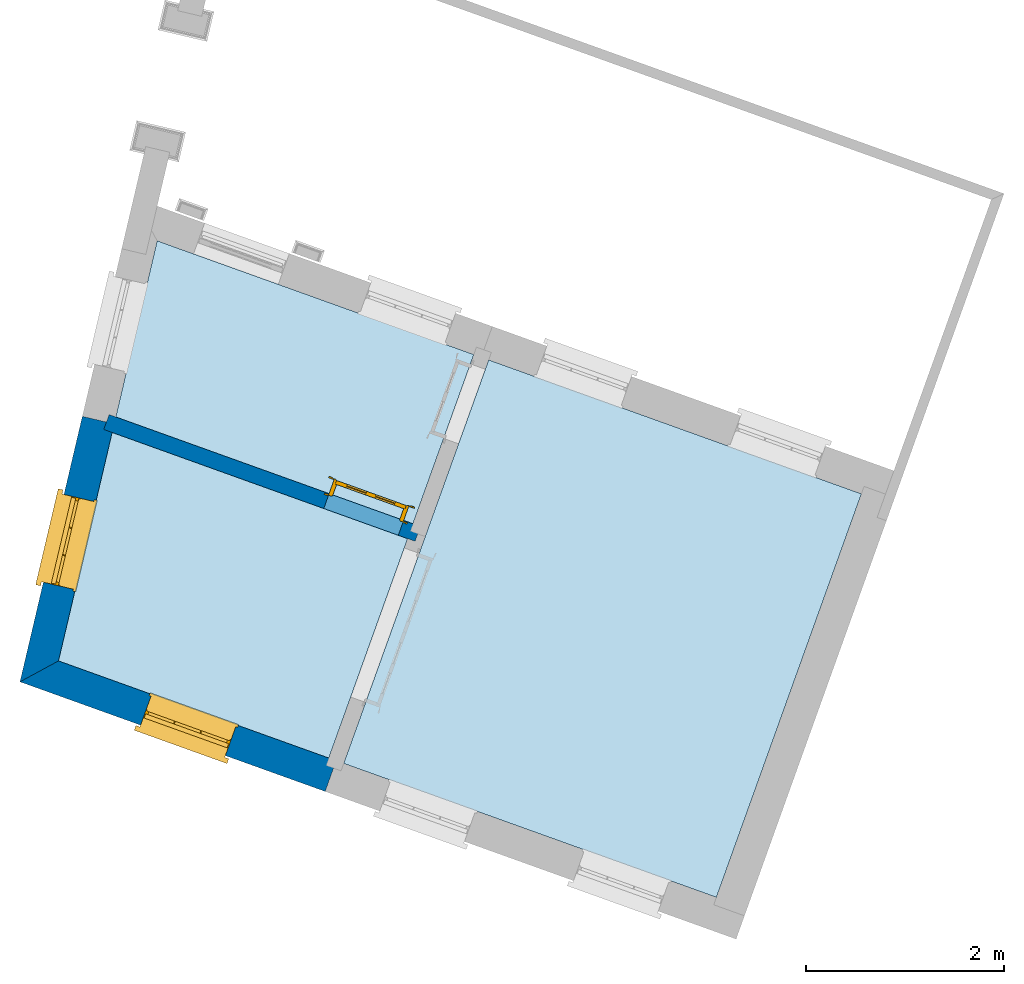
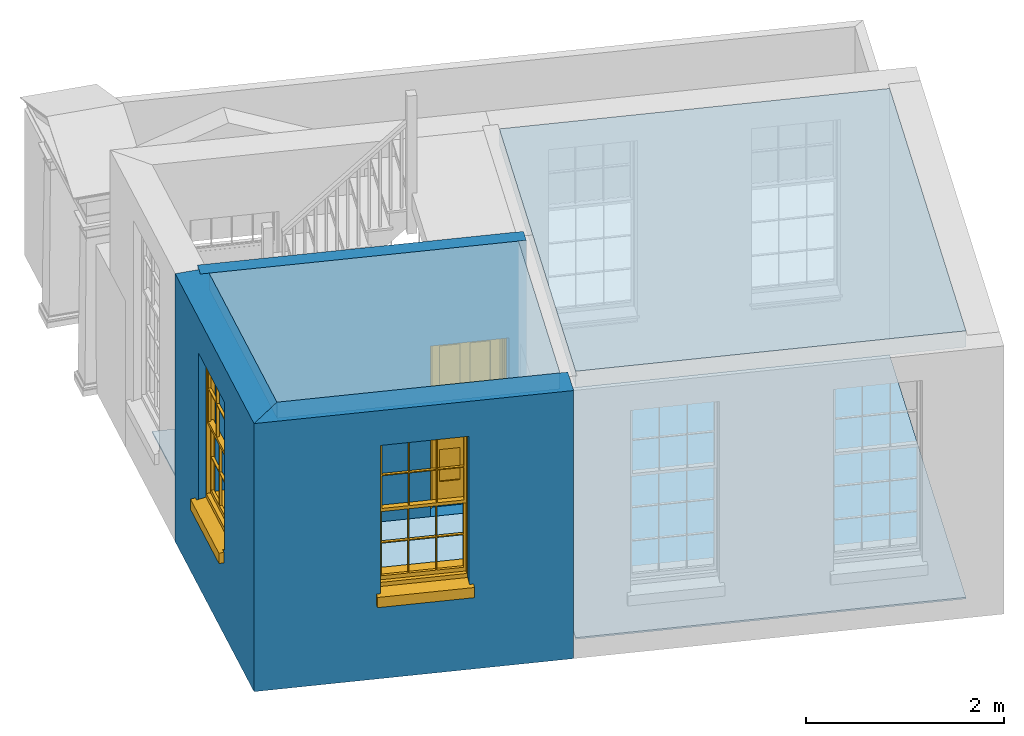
# One storey, part 1 of 6: 5 slabs, 3 walls, 2 windows, 1 door, 3 openings.
"""IFC4 building model written with IfcOpenShell, lengths in metres."""

import ifcopenshell
import ifcopenshell.guid

model = None  # the IFC model being written
_history = None  # IfcOwnerHistory: only IFC2X3 demands one
_inside = {}  # id of a spatial element -> (the spatial element, [elements in it])
_under = {}  # id of a project, library or spatial element -> (it, [spatial elements below it])
_declared = {}  # id of a project -> (the project, [libraries it declares])
_typed = {}  # id of a type object -> (the type object, [elements of that type])
_made_of = {}  # id of a material, layer set ... -> (it, [elements and type objects made of it])


def new_model(schema):
    """Start an empty IFC model of exactly this schema.

    Asked for "IFC4X3", IfcOpenShell would pick the latest addendum, in which some entities
    have other attributes; the version numbers below select the first issue.
    IFC2X3 requires an IfcOwnerHistory on every rooted entity: one is made here for all.
    """
    global model, _history
    if schema == "IFC4X3":
        model = ifcopenshell.file(schema_version=(4, 3, 0, 0))
    else:
        model = ifcopenshell.file(schema=schema)
    _inside.clear()
    _under.clear()
    _declared.clear()
    _typed.clear()
    _made_of.clear()
    _history = None
    if model.schema == "IFC2X3":
        org = make("IfcOrganization", Name="unknown")
        user = make(
            "IfcPersonAndOrganization",
            ThePerson=make("IfcPerson", FamilyName="unknown"),
            TheOrganization=org,
        )
        app = make(
            "IfcApplication",
            ApplicationDeveloper=org,
            Version="unknown",
            ApplicationFullName="unknown",
            ApplicationIdentifier="unknown",
        )
        _history = make(
            "IfcOwnerHistory",
            OwningUser=user,
            OwningApplication=app,
            ChangeAction="ADDED",
            CreationDate=0,
        )
    return model


def make(cls, **values):
    """One entity of the class cls with the attributes given. An attribute that is None is left unset."""
    return model.create_entity(
        cls, **{name: value for name, value in values.items() if value is not None}
    )


def rooted(cls, **values):
    """An entity with a GlobalId (a new one), such as an element, a storey or a relation."""
    return make(cls, GlobalId=ifcopenshell.guid.new(), OwnerHistory=_history, **values)


def si_unit(unit_type, name, prefix=None):
    """IfcSIUnit, for example si_unit("LENGTHUNIT", "METRE", prefix="MILLI")."""
    return make("IfcSIUnit", UnitType=unit_type, Prefix=prefix, Name=name)


def assignment(units):
    """IfcUnitAssignment: the units of a project."""
    return None if units is None else make("IfcUnitAssignment", Units=units)


def point(xyz):
    """IfcCartesianPoint."""
    return None if xyz is None else make("IfcCartesianPoint", Coordinates=xyz)


def direction(xyz):
    """IfcDirection."""
    return None if xyz is None else make("IfcDirection", DirectionRatios=xyz)


def frame(location, z_axis=None, x_axis=None):
    """IfcAxis2Placement3D, a coordinate frame: its origin and axes. An axis left out is left unset."""
    return make(
        "IfcAxis2Placement3D",
        Location=point(location),
        Axis=direction(z_axis),
        RefDirection=direction(x_axis),
    )


def origin():
    """The frame at (0, 0, 0) with its axes left unset."""
    return frame((0.0, 0.0, 0.0))


def origin_with_axes():
    """The frame at (0, 0, 0) with the z axis (0, 0, 1) and the x axis (1, 0, 0) written out."""
    return frame((0.0, 0.0, 0.0), z_axis=(0.0, 0.0, 1.0), x_axis=(1.0, 0.0, 0.0))


def place(relative_to, where):
    """IfcLocalPlacement: puts the frame where relative to a parent placement (None: the world)."""
    return make(
        "IfcLocalPlacement", PlacementRelTo=relative_to, RelativePlacement=where
    )


def context(
    kind, dimensions, precision=None, world=None, true_north=None, identifier=None
):
    """IfcGeometricRepresentationContext, for example the 3D "Model" context."""
    return make(
        "IfcGeometricRepresentationContext",
        ContextIdentifier=identifier,
        ContextType=kind,
        CoordinateSpaceDimension=dimensions,
        Precision=precision,
        WorldCoordinateSystem=world,
        TrueNorth=true_north,
    )


def subcontext(parent, identifier, kind, view, scale=None):
    """IfcGeometricRepresentationSubContext, for example "Body" below "Model"."""
    return make(
        "IfcGeometricRepresentationSubContext",
        ContextIdentifier=identifier,
        ContextType=kind,
        ParentContext=parent,
        TargetScale=scale,
        TargetView=view,
    )


def project(units=None, contexts=None):
    """IfcProject with its units and contexts."""
    return rooted(
        "IfcProject",
        Name="project",
        RepresentationContexts=contexts,
        UnitsInContext=assignment(units),
    )


def spatial(cls, under=None, at=None, **own):
    """A site, building, storey or space (cls), placed at a placement, below another one or the project."""
    s = rooted(cls, ObjectPlacement=at, **own)
    if under is not None:
        _under.setdefault(under.id(), (under, []))[1].append(s)
    return s


def polyline(points):
    """IfcPolyline through the points."""
    return make("IfcPolyline", Points=[point(p) for p in points])


def outline(outer, holes=None, kind="AREA"):
    """IfcArbitraryClosedProfileDef: a profile drawn as a closed curve; with holes, ...WithVoids."""
    if holes is None:
        return make("IfcArbitraryClosedProfileDef", ProfileType=kind, OuterCurve=outer)
    return make(
        "IfcArbitraryProfileDefWithVoids",
        ProfileType=kind,
        OuterCurve=outer,
        InnerCurves=holes,
    )


def extrude(swept, where, along, depth):
    """IfcExtrudedAreaSolid: the profile swept, set in the frame where, extruded along a direction by depth."""
    return make(
        "IfcExtrudedAreaSolid",
        SweptArea=swept,
        Position=where,
        ExtrudedDirection=direction(along),
        Depth=depth,
    )


def faces_of(points, faces, orient=None, outer=None):
    """IfcFace entities. A face is a list of loops; a loop is a list of indices into points, from 0.

    orient and outer hold one flag for each loop. By default every Orientation is true, the
    first loop of a face is its IfcFaceOuterBound and the others are IfcFaceBound.
    """
    made = []
    for i, loops in enumerate(faces):
        bounds = []
        for j, loop in enumerate(loops):
            is_outer = j == 0 if outer is None else outer[i][j]
            bounds.append(
                make(
                    "IfcFaceOuterBound" if is_outer else "IfcFaceBound",
                    Bound=make("IfcPolyLoop", Polygon=[points[k] for k in loop]),
                    Orientation=True if orient is None else orient[i][j],
                )
            )
        made.append(make("IfcFace", Bounds=bounds))
    return made


def faceted_brep(points, faces, orient=None, outer=None, voids=None):
    """IfcFacetedBrep: a solid bounded by flat faces; with voids (closed shells), ...WithVoids."""
    shared = [point(p) for p in points]
    hull = make("IfcClosedShell", CfsFaces=faces_of(shared, faces, orient, outer))
    if voids is None:
        return make("IfcFacetedBrep", Outer=hull)
    return make(
        "IfcFacetedBrepWithVoids",
        Outer=hull,
        Voids=[
            make(cls, CfsFaces=faces_of(shared, fs, o, b)) for cls, fs, o, b in voids
        ],
    )


def shape(context_of_items, identifier, shape_type, items):
    """IfcShapeRepresentation: the items that make up one representation, for example the "Body"."""
    return make(
        "IfcShapeRepresentation",
        ContextOfItems=context_of_items,
        RepresentationIdentifier=identifier,
        RepresentationType=shape_type,
        Items=items,
    )


def source(mapping_origin, context_of_items, identifier, shape_type, items):
    """IfcRepresentationMap: a shape defined once, which mapped items show again and again."""
    return make(
        "IfcRepresentationMap",
        MappingOrigin=mapping_origin,
        MappedRepresentation=shape(context_of_items, identifier, shape_type, items),
    )


def transform(
    local_origin,
    x_axis=None,
    y_axis=None,
    z_axis=None,
    scale=None,
    scale2=None,
    scale3=None,
    uniform=True,
):
    """IfcCartesianTransformationOperator3D, or its non-uniform kind. x_axis, y_axis, z_axis: its Axis1, 2, 3."""
    if uniform:
        return make(
            "IfcCartesianTransformationOperator3D",
            Axis1=direction(x_axis),
            Axis2=direction(y_axis),
            LocalOrigin=point(local_origin),
            Scale=scale,
            Axis3=direction(z_axis),
        )
    return make(
        "IfcCartesianTransformationOperator3DnonUniform",
        Axis1=direction(x_axis),
        Axis2=direction(y_axis),
        LocalOrigin=point(local_origin),
        Scale=scale,
        Axis3=direction(z_axis),
        Scale2=scale2,
        Scale3=scale3,
    )


def mapped(mapping_source, mapping_target):
    """IfcMappedItem: shows the shape of a source again, moved by a transform."""
    return make(
        "IfcMappedItem", MappingSource=mapping_source, MappingTarget=mapping_target
    )


def material(Name=None, Category=None):
    """IfcMaterial."""
    return make("IfcMaterial", Name=Name, Category=Category)


def layer(
    of_material, thickness, ventilated=None, Name=None, Category=None, Priority=None
):
    """IfcMaterialLayer: one layer of a wall or slab, of a material (None: an air gap)."""
    return make(
        "IfcMaterialLayer",
        Material=of_material,
        LayerThickness=thickness,
        IsVentilated=ventilated,
        Name=Name,
        Category=Category,
        Priority=Priority,
    )


def layer_set(layers, Name=None):
    """IfcMaterialLayerSet."""
    return make("IfcMaterialLayerSet", MaterialLayers=layers, LayerSetName=Name)


def layer_usage(for_layer_set, set_direction, sense, offset, extent=None):
    """IfcMaterialLayerSetUsage: how a layer set lies in its element."""
    return make(
        "IfcMaterialLayerSetUsage",
        ForLayerSet=for_layer_set,
        LayerSetDirection=set_direction,
        DirectionSense=sense,
        OffsetFromReferenceLine=offset,
        ReferenceExtent=extent,
    )


def made_of(thing, what):
    """Note that an element or type object is made of a material, layer set ...; save() writes the relation."""
    if what is not None:
        _made_of.setdefault(what.id(), (what, []))[1].append(thing)
    return thing


def type_object(cls, material=None, **own):
    """A type object (cls), such as IfcWallType, which elements share."""
    return made_of(rooted(cls, **own), material)


def type_shapes(of_type, sources):
    """Give a type object the sources (RepresentationMaps) that its elements show as mapped items."""
    of_type.RepresentationMaps = sources


def element(
    cls,
    number,
    at=None,
    inside=None,
    cuts=None,
    type_object=None,
    material=None,
    context=None,
    identifier="Body",
    shape_type=None,
    held_by="IfcProductDefinitionShape",
    body=None,
    shapes=None,
    **own,
):
    """One element of the class cls, such as IfcWall. Its Tag is "e" and its number.

    at: its placement. inside: the storey or other place that contains it. cuts: it is an
    opening in that element (IfcRelVoidsElement). A single representation is given by context,
    identifier, shape_type and body (its items); several are given by shapes. held_by: the class
    of the entity that holds the representations. save() writes the other relations.
    """
    e = rooted(cls, Tag="e%d" % number, ObjectPlacement=at, **own)
    if body is not None:
        shapes = [shape(context, identifier, shape_type, body)]
    if shapes is not None:
        e.Representation = make(held_by, Representations=shapes)
    if inside is not None:
        _inside.setdefault(inside.id(), (inside, []))[1].append(e)
    if cuts is not None:
        rooted(
            "IfcRelVoidsElement", RelatingBuildingElement=cuts, RelatedOpeningElement=e
        )
    if type_object is not None:
        _typed.setdefault(type_object.id(), (type_object, []))[1].append(e)
    return made_of(e, material)


def fill(opening, filler):
    """IfcRelFillsElement: the door or window that sits in an opening."""
    return rooted(
        "IfcRelFillsElement",
        RelatingOpeningElement=opening,
        RelatedBuildingElement=filler,
    )


def aggregate(whole, parts):
    """IfcRelAggregates: a whole, such as a stair, and the parts it consists of."""
    return rooted("IfcRelAggregates", RelatingObject=whole, RelatedObjects=parts)


def save(model, path):
    """Write the relations noted so far, then the file.

    IfcRelAggregates (storeys below a building ...), IfcRelContainedInSpatialStructure (elements
    in a storey), IfcRelDefinesByType, IfcRelAssociatesMaterial and IfcRelDeclares: one each for
    every whole, place, type object, material and project.
    """
    for whole, parts in _under.values():
        aggregate(whole, parts)
    for where, things in _inside.values():
        rooted(
            "IfcRelContainedInSpatialStructure",
            RelatedElements=things,
            RelatingStructure=where,
        )
    for kind, things in _typed.values():
        rooted("IfcRelDefinesByType", RelatedObjects=things, RelatingType=kind)
    for what, things in _made_of.values():
        rooted("IfcRelAssociatesMaterial", RelatedObjects=things, RelatingMaterial=what)
    for by, libraries in _declared.values():
        rooted("IfcRelDeclares", RelatingContext=by, RelatedDefinitions=libraries)
    model.write(path)


model = new_model("IFC4")

# Units and contexts
model_context = context("Model", 3, world=origin_with_axes())
body_context = subcontext(model_context, "Body", "Model", "MODEL_VIEW")
ifc_project = project(units=[si_unit("PLANEANGLEUNIT", "RADIAN"), si_unit("MASSUNIT", "GRAM", prefix="KILO"), si_unit("FORCEUNIT", "NEWTON", prefix="KILO"), si_unit("LENGTHUNIT", "METRE"), si_unit("AREAUNIT", "SQUARE_METRE"), si_unit("VOLUMEUNIT", "CUBIC_METRE")], contexts=[model_context, model_context])

# Sites, building, storey
site_1_placement = place(None, origin_with_axes())
site_1 = spatial("IfcSite", under=ifc_project, at=site_1_placement, Name="Tamar")
site_2_placement = place(site_1_placement, origin_with_axes())
site_2 = spatial("IfcSite", under=site_1, at=site_2_placement, Name="Site plot-22", CompositionType="ELEMENT")
building_placement = place(None, origin_with_axes())
building = spatial("IfcBuilding", under=site_2, at=building_placement, Name="Building plot-22", CompositionType="ELEMENT")
storey_placement = place(None, frame((0.0, 0.0, 24.5), z_axis=(0.0, 0.0, 1.0), x_axis=(1.0, 0.0, 0.0)))
storey = spatial("IfcBuildingStorey", under=building, at=storey_placement, Name="plot-22 0", CompositionType="ELEMENT", Elevation=24.5)

# Slabs
slab_1_placement = place(storey_placement, frame((251.12970660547, 276.124688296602, 0.0)))
element("IfcSlab", 1, at=slab_1_placement, inside=storey, Name="My Slab", ObjectType="Slab", PredefinedType="FLOOR", context=body_context, shape_type="SweptSolid", body=[
    extrude(outline(polyline([(0.0, 0.0), (-0.417819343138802, -1.77888691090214), (2.58368293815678, -2.85742703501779), (3.19757895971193, -1.1489970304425), (0.0, 0.0)])), origin_with_axes(), (0.0, 0.0, 1.0), 0.02),
])
slab_2_placement = place(storey_placement, frame((250.675062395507, 274.189017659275, 3.1)))
element("IfcSlab", 2, at=slab_2_placement, inside=storey, Name="My Slab", ObjectType="Slab", PredefinedType="FLOOR", context=body_context, shape_type="SweptSolid", body=[
    extrude(outline(polyline([(0.0, 0.0), (-0.541850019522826, -2.30695376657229), (2.1880883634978, -3.28791190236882), (2.9842208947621, -1.07233034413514), (0.0, 0.0)])), origin_with_axes(), (0.0, 0.0, 1.0), 0.2),
])
slab_3_placement = place(storey_placement, frame((250.675062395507, 274.189017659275, 0.0)))
element("IfcSlab", 3, at=slab_3_placement, inside=storey, Name="My Slab", ObjectType="Slab", PredefinedType="FLOOR", context=body_context, shape_type="SweptSolid", body=[
    extrude(outline(polyline([(0.0, 0.0), (-0.541850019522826, -2.30695376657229), (2.1880883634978, -3.28791190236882), (2.9842208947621, -1.07233034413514), (0.0, 0.0)])), origin_with_axes(), (0.0, 0.0, 1.0), 0.02),
])
slab_4_placement = place(storey_placement, frame((253.013724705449, 270.846999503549, 3.1)))
element("IfcSlab", 4, at=slab_4_placement, inside=storey, Name="My Slab", ObjectType="Slab", PredefinedType="FLOOR", context=body_context, shape_type="SweptSolid", body=[
    extrude(outline(polyline([(0.0, 0.0), (3.76400951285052, -1.35253446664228), (5.22814431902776, 2.72205104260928), (1.4641348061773, 4.07458550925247), (0.0, 0.0)])), origin_with_axes(), (0.0, 0.0, 1.0), 0.2),
])
slab_5_placement = place(storey_placement, frame((253.013724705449, 270.846999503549, 0.0)))
element("IfcSlab", 5, at=slab_5_placement, inside=storey, Name="My Slab", ObjectType="Slab", PredefinedType="FLOOR", context=body_context, shape_type="SweptSolid", body=[
    extrude(outline(polyline([(0.0, 0.0), (3.76400951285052, -1.35253446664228), (5.22814431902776, 2.72205104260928), (1.4641348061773, 4.07458550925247), (0.0, 0.0)])), origin_with_axes(), (0.0, 0.0, 1.0), 0.02),
])

# Wall, opening, window
ifc_material_1 = material(Name="Masonry")
ifc_layer_1 = layer(ifc_material_1, 0.33, ventilated=False)
ifc_layer_set_1 = layer_set([ifc_layer_1], Name="exterior_0.08_0.25")
ifc_layer_usage_1 = layer_usage(ifc_layer_set_1, "AXIS2", "POSITIVE", -0.25)
wall_type_1 = type_object("IfcWallType", Name="exterior_0.08_0.25", PredefinedType="SOLIDWALL", material=ifc_layer_set_1)
wall_1_placement = place(storey_placement, frame((250.617693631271, 274.294640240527, 0.0), z_axis=(0.0, 0.0, 1.0), x_axis=(-0.228654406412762, -0.973507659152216, 0.0)))
wall_1 = element("IfcWall", 6, at=wall_1_placement, inside=storey, type_object=wall_type_1, material=ifc_layer_usage_1, Name="exterior", context=body_context, shape_type="SweptSolid", body=[
    extrude(outline(polyline([(-4.84638636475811e-15, 0.0799999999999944), (1.23387836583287e-14, -0.250000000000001), (2.75373249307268, -0.249999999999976), (2.4594403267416, 0.0799999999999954), (-4.84638636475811e-15, 0.0799999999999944)])), origin_with_axes(), (0.0, 0.0, 1.0), 3.3),
])
opening_1_placement = place(wall_1_placement, frame((0.810391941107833, 0.0, 1.05)))
opening_1 = element("IfcOpeningElement", 7, at=opening_1_placement, cuts=wall_1, Name="My Opening", ObjectType="Opening", context=body_context, shape_type="SweptSolid", body=[
    extrude(outline(polyline([(0.0, -0.270000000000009), (0.910000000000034, -0.270000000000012), (0.910000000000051, 1.09999999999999), (1.70974345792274e-14, 1.1), (0.0, -0.270000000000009)])), origin_with_axes(), (0.0, 0.0, 1.0), 1.82),
])
window_type = type_object("IfcWindowType", Name="sash_big", PartitioningType="DOUBLE_PANEL_HORIZONTAL", PredefinedType="NOTDEFINED")
shared_shape_1 = source(origin(), body_context, "Body", "Brep", [
    faceted_brep([(0.033125, 0.145, 0.975209), (0.01, 0.145, 0.975209), (0.033125, 0.145, 1.376042), (0.876875, 0.145, 0.975209), (0.876875, 0.145, 1.376042), (0.9, 0.145, 0.975209), (0.876875, 0.145, 1.386042), (0.876875, 0.145, 1.786875), (0.9, 0.145, 1.81), (0.033125, 0.145, 1.786875), (0.033125, 0.145, 1.386042), (0.01, 0.145, 1.81), (0.876875, 0.115, 1.376042), (0.876875, 0.115, 0.975209), (0.9, 0.115, 0.937083), (0.033125, 0.115, 1.786875), (0.01, 0.115, 1.81), (0.033125, 0.115, 1.386042), (0.01, 0.115, 0.937083), (0.033125, 0.115, 0.975209), (0.033125, 0.115, 1.376042), (0.876875, 0.115, 1.786875), (0.876875, 0.115, 1.386042), (0.9, 0.115, 1.81), (0.033125, 0.145, 0.937083), (0.01, 0.145, 0.937083), (0.033125, 0.145, 0.53625), (0.876875, 0.145, 0.937083), (0.876875, 0.145, 0.53625), (0.9, 0.145, 0.937083), (0.876875, 0.145, 0.52625), (0.876875, 0.145, 0.125417), (0.9, 0.145, 0.077167), (0.033125, 0.145, 0.125417), (0.033125, 0.145, 0.52625), (0.01, 0.145, 0.077167), (-0.0425, 0.0, 0.01), (-0.0425, -0.05, 0.001667), (0.0, 0.0, 0.01), (0.9525, 0.0, 0.01), (0.91, 0.0, 0.01), (0.9525, -0.05, 0.001667), (-0.02, 0.33, 0.077167), (0.0, 0.33, 0.077167), (-0.02, 0.36, 0.077167), (0.0, 0.19, 0.077167), (0.01, 0.19, 0.077167), (0.91, 0.19, 0.077167), (0.91, 0.33, 0.077167), (0.9, 0.19, 0.077167), (0.93, 0.33, 0.077167), (0.93, 0.36, 0.077167), (0.01, 0.175, 0.975209), (0.9, 0.175, 0.975209), (0.876875, 0.175, 0.125417), (0.876875, 0.175, 0.52625), (0.9, 0.175, 0.077167), (0.876875, 0.175, 0.53625), (0.876875, 0.175, 0.937083), (0.033125, 0.175, 0.125417), (0.01, 0.175, 0.077167), (0.033125, 0.175, 0.52625), (0.033125, 0.175, 0.937083), (0.033125, 0.175, 0.53625), (-0.02, 0.33, 0.052167), (-0.02, 0.36, 0.052167), (0.93, 0.36, 0.052167), (0.93, 0.33, 0.052167), (0.91, 0.33, 0.052167), (0.0, 0.33, 0.052167), (0.91, 0.1, 0.026667), (0.0, 0.1, 0.026667), (-0.0425, -0.05, -0.123333), (0.9525, -0.05, -0.123333), (-0.0425, 0.0, -0.123333), (0.9525, 0.0, -0.123333), (0.01, 0.19, 1.81), (0.9, 0.19, 1.81), (0.0, 0.19, 1.82), (0.91, 0.19, 1.82), (0.01, 0.1, 0.077167), (0.9, 0.1, 0.077167), (0.592292, 0.145, 0.125417), (0.592292, 0.175, 0.125417), (0.317708, 0.175, 0.125417), (0.317708, 0.145, 0.125417), (0.592292, 0.145, 0.53625), (0.317708, 0.145, 0.53625), (0.317708, 0.145, 0.52625), (0.592292, 0.145, 0.52625), (0.592292, 0.175, 0.53625), (0.317708, 0.175, 0.53625), (0.592292, 0.115, 1.386042), (0.592292, 0.145, 1.386042), (0.317708, 0.145, 1.386042), (0.317708, 0.115, 1.386042), (0.317708, 0.115, 1.376042), (0.592292, 0.115, 1.376042), (0.317708, 0.145, 1.376042), (0.592292, 0.145, 1.376042), (0.602292, 0.115, 1.376042), (0.592292, 0.115, 0.975209), (0.602292, 0.115, 0.975209), (0.602292, 0.145, 0.975209), (0.592292, 0.145, 0.975209), (0.602292, 0.145, 1.376042), (0.602292, 0.175, 0.53625), (0.602292, 0.145, 0.53625), (0.317708, 0.175, 0.52625), (0.307708, 0.175, 0.125417), (0.307708, 0.175, 0.52625), (0.602292, 0.175, 0.52625), (0.602292, 0.175, 0.125417), (0.592292, 0.175, 0.52625), (0.307708, 0.175, 0.53625), (0.317708, 0.175, 0.937083), (0.307708, 0.175, 0.937083), (0.602292, 0.175, 0.937083), (0.592292, 0.175, 0.937083), (0.307708, 0.145, 0.52625), (0.307708, 0.145, 0.125417), (0.307708, 0.145, 0.53625), (0.307708, 0.145, 0.937083), (0.592292, 0.145, 0.937083), (0.317708, 0.145, 0.937083), (0.602292, 0.145, 0.937083), (0.602292, 0.145, 0.52625), (0.602292, 0.145, 0.125417), (0.307708, 0.115, 1.386042), (0.307708, 0.115, 1.376042), (0.307708, 0.115, 0.975209), (0.317708, 0.115, 0.975209), (0.317708, 0.115, 1.786875), (0.307708, 0.115, 1.786875), (0.602292, 0.115, 1.786875), (0.592292, 0.115, 1.786875), (0.602292, 0.115, 1.386042), (0.602292, 0.145, 1.386042), (0.307708, 0.145, 1.386042), (0.307708, 0.145, 1.786875), (0.317708, 0.145, 1.786875), (0.592292, 0.145, 1.786875), (0.602292, 0.145, 1.786875), (0.307708, 0.145, 1.376042), (0.317708, 0.145, 0.975209), (0.307708, 0.145, 0.975209), (0.91, 0.1, 1.82), (0.9, 0.1, 1.81), (0.01, 0.1, 1.81), (0.0, 0.1, 1.82), (0.91, 0.0, 0.0), (0.0, 0.0, 0.0), (0.91, 0.33, 0.0), (0.0, 0.33, 0.0)], [[[0, 1, 2]], [[3, 4, 5]], [[6, 7, 8]], [[9, 10, 11]], [[12, 13, 14]], [[15, 16, 17]], [[18, 19, 20]], [[21, 22, 23]], [[24, 25, 26]], [[27, 28, 29]], [[30, 31, 32]], [[33, 34, 35]], [[14, 27, 29]], [[25, 24, 18]], [[36, 37, 38]], [[39, 40, 41]], [[42, 43, 44]], [[45, 46, 43]], [[47, 48, 49]], [[50, 51, 48]], [[1, 0, 52]], [[5, 53, 3]], [[54, 55, 56]], [[57, 58, 53]], [[59, 60, 61]], [[62, 63, 52]], [[48, 43, 46, 49]], [[51, 44, 43, 48]], [[64, 42, 44, 65]], [[65, 44, 51, 66]], [[66, 51, 50, 67]], [[65, 66, 68, 69]], [[60, 56, 49, 46]], [[70, 71, 38, 40]], [[37, 41, 40, 38]], [[37, 72, 73, 41]], [[74, 75, 73, 72]], [[8, 11, 76, 77]], [[76, 78, 79, 77]], [[32, 35, 80, 81]], [[81, 80, 71, 70]], [[82, 83, 84, 85]], [[86, 87, 88, 89]], [[86, 90, 91, 87]], [[92, 93, 94, 95]], [[92, 95, 96, 97]], [[96, 98, 99, 97]], [[100, 97, 101, 102]], [[103, 104, 99, 105]], [[97, 99, 104, 101]], [[102, 103, 105, 100]], [[28, 57, 106, 107]], [[108, 84, 109, 110]], [[111, 112, 83, 113]], [[114, 110, 61, 63]], [[90, 113, 108, 91]], [[115, 91, 114, 116]], [[117, 106, 90, 118]], [[111, 106, 57, 55]], [[119, 110, 109, 120]], [[34, 61, 110, 119]], [[89, 113, 83, 82]], [[88, 108, 113, 89]], [[85, 84, 108, 88]], [[121, 114, 63, 26]], [[122, 116, 114, 121]], [[123, 118, 90, 86]], [[87, 91, 115, 124]], [[107, 106, 117, 125]], [[126, 111, 55, 30]], [[127, 112, 111, 126]], [[126, 30, 28, 107]], [[88, 119, 120, 85]], [[126, 89, 82, 127]], [[125, 123, 86, 107]], [[121, 26, 34, 119]], [[124, 122, 121, 87]], [[128, 17, 20, 129]], [[96, 129, 130, 131]], [[132, 133, 128, 95]], [[134, 135, 92, 136]], [[100, 12, 22, 136]], [[137, 6, 4, 105]], [[94, 138, 139, 140]], [[137, 93, 141, 142]], [[99, 98, 94, 93]], [[143, 2, 10, 138]], [[144, 145, 143, 98]], [[129, 143, 145, 130]], [[20, 2, 143, 129]], [[131, 144, 98, 96]], [[128, 138, 10, 17]], [[133, 139, 138, 128]], [[135, 141, 93, 92]], [[95, 94, 140, 132]], [[22, 6, 137, 136]], [[136, 137, 142, 134]], [[100, 105, 4, 12]], [[107, 86, 89, 126]], [[106, 111, 113, 90]], [[91, 108, 110, 114]], [[87, 121, 119, 88]], [[97, 100, 136, 92]], [[129, 96, 95, 128]], [[98, 143, 138, 94]], [[105, 99, 93, 137]], [[131, 101, 104, 144]], [[124, 115, 118, 123]], [[132, 140, 141, 135]], [[120, 109, 59, 33]], [[15, 9, 139, 133]], [[134, 142, 7, 21]], [[31, 54, 112, 127]], [[36, 74, 72, 37]], [[39, 41, 73, 75]], [[18, 14, 101, 131]], [[23, 16, 132, 135]], [[83, 56, 60, 84]], [[52, 53, 118, 115]], [[53, 52, 144, 104]], [[11, 8, 141, 140]], [[14, 18, 124, 123]], [[2, 1, 11, 10]], [[8, 5, 4, 6]], [[57, 53, 56, 55]], [[60, 52, 63, 61]], [[26, 25, 35, 34]], [[32, 29, 28, 30]], [[14, 23, 22, 12]], [[18, 20, 17, 16]], [[19, 0, 2, 20]], [[17, 10, 9, 15]], [[12, 4, 3, 13]], [[21, 7, 6, 22]], [[27, 58, 57, 28]], [[30, 55, 54, 31]], [[33, 59, 61, 34]], [[26, 63, 62, 24]], [[5, 8, 77, 53]], [[76, 11, 1, 52]], [[46, 45, 78, 76]], [[49, 77, 79, 47]], [[70, 146, 147, 81]], [[71, 80, 148, 149]], [[19, 130, 145, 0]], [[102, 13, 3, 103]], [[116, 122, 24, 62]], [[29, 32, 81, 14]], [[80, 35, 25, 18]], [[60, 46, 76, 52]], [[77, 49, 56, 53]], [[23, 14, 81, 147]], [[16, 148, 80, 18]], [[35, 85, 120]], [[120, 33, 35]], [[127, 82, 32]], [[32, 31, 127]], [[32, 82, 85, 35]], [[102, 101, 14]], [[14, 13, 102]], [[18, 131, 130]], [[130, 19, 18]], [[134, 21, 23]], [[23, 135, 134]], [[16, 15, 133]], [[133, 132, 16]], [[11, 140, 139]], [[139, 9, 11]], [[142, 141, 8]], [[8, 7, 142]], [[23, 147, 148, 16]], [[146, 149, 148, 147]], [[52, 115, 116]], [[116, 62, 52]], [[118, 53, 117]], [[58, 117, 53]], [[27, 125, 117, 58]], [[56, 83, 112]], [[112, 54, 56]], [[109, 84, 60]], [[60, 59, 109]], [[125, 27, 14]], [[14, 123, 125]], [[122, 124, 18]], [[18, 24, 122]], [[145, 144, 52]], [[52, 0, 145]], [[103, 3, 53]], [[53, 104, 103]], [[79, 78, 149, 146]], [[78, 45, 71, 149]], [[146, 70, 47, 79]], [[150, 75, 74, 151]], [[68, 66, 67]], [[48, 68, 67, 50]], [[69, 64, 65]], [[42, 64, 69, 43]], [[69, 68, 152, 153]], [[70, 68, 48, 47]], [[150, 152, 68, 70]], [[43, 69, 71, 45]], [[69, 153, 151, 71]], [[152, 150, 151, 153]], [[38, 151, 74, 36]], [[71, 151, 38]], [[39, 75, 150, 40]], [[40, 150, 70]]]),
])
type_shapes(window_type, [shared_shape_1])
window_1_placement = place(storey_placement, frame((250.169546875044, 273.567454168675, 1.05), z_axis=(0.0, 0.0, 1.0), x_axis=(-0.208075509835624, -0.885891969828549, 0.0)))
window_1 = element("IfcWindow", 8, at=window_1_placement, inside=storey, type_object=window_type, Name="kitchen street window", OverallHeight=1.82, OverallWidth=0.91, context=body_context, shape_type="MappedRepresentation", body=[
    mapped(shared_shape_1, transform((0.0, 0.0, 0.0), scale=1.0)),
])
fill(opening_1, window_1)

wall_2_placement = place(storey_placement, frame((250.039018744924, 271.830902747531, 0.0), z_axis=(0.0, 0.0, 1.0), x_axis=(0.941087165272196, -0.338164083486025, 0.0)))
wall_2 = element("IfcWall", 9, at=wall_2_placement, inside=storey, type_object=wall_type_1, material=ifc_layer_usage_1, Name="exterior", context=body_context, shape_type="SweptSolid", body=[
    extrude(outline(polyline([(0.0713435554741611, 0.0799999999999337), (-0.222948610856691, -0.250000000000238), (3.05217833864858, -0.249999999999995), (3.0521783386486, 0.0799999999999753), (0.0713435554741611, 0.0799999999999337)])), origin_with_axes(), (0.0, 0.0, 1.0), 3.3),
])
opening_2_placement = place(wall_2_placement, frame((1.07108916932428, 0.0, 1.05)))
opening_2 = element("IfcOpeningElement", 10, at=opening_2_placement, cuts=wall_2, Name="My Opening", ObjectType="Opening", context=body_context, shape_type="SweptSolid", body=[
    extrude(outline(polyline([(0.0, -0.269999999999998), (0.910000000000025, -0.270000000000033), (0.910000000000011, 1.1), (-1.46549439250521e-14, 1.10000000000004), (0.0, -0.269999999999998)])), origin_with_axes(), (0.0, 0.0, 1.0), 1.82),
])
window_2_placement = place(storey_placement, frame((250.955702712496, 271.214605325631, 1.05), z_axis=(0.0, 0.0, 1.0), x_axis=(0.85638932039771, -0.307729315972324, 0.0)))
window_2 = element("IfcWindow", 11, at=window_2_placement, inside=storey, type_object=window_type, Name="kitchen street window", OverallHeight=1.82, OverallWidth=0.91, context=body_context, shape_type="MappedRepresentation", body=[
    mapped(shared_shape_1, transform((0.0, 0.0, 0.0), scale=1.0)),
])
fill(opening_2, window_2)

# Wall, opening, door
ifc_material_2 = material(Name="Masonry")
ifc_layer_2 = layer(ifc_material_2, 0.16, ventilated=False)
ifc_layer_set_2 = layer_set([ifc_layer_2], Name="interior_0.08_0.08")
ifc_layer_usage_2 = layer_usage(ifc_layer_set_2, "AXIS2", "POSITIVE", -0.08)
wall_type_2 = type_object("IfcWallType", Name="interior_0.08_0.08", PredefinedType="SOLIDWALL", material=ifc_layer_set_2)
wall_3_placement = place(storey_placement, frame((250.617693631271, 274.294640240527, 0.0), z_axis=(0.0, 0.0, 1.0), x_axis=(0.94108716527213, -0.338164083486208, 0.0)))
wall_3 = element("IfcWall", 12, at=wall_3_placement, inside=storey, type_object=wall_type_2, material=ifc_layer_usage_2, Name="interior", context=body_context, shape_type="SweptSolid", body=[
    extrude(outline(polyline([(1.72177963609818e-14, 0.0799999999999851), (-1.7209829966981e-14, -0.0799999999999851), (3.34074236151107, -0.0799999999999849), (3.34074236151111, 0.079999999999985), (1.72177963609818e-14, 0.0799999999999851)])), origin_with_axes(), (0.0, 0.0, 1.0), 3.3),
])
opening_3_placement = place(wall_3_placement, frame((2.36074236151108, 0.0, 0.0199999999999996)))
opening_3 = element("IfcOpeningElement", 13, at=opening_3_placement, cuts=wall_3, Name="My Opening", ObjectType="Opening", context=body_context, shape_type="SweptSolid", body=[
    extrude(outline(polyline([(0.0, -0.100000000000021), (0.799999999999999, -0.10000000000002), (0.800000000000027, 1.09999999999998), (2.8421709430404e-14, 1.09999999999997), (0.0, -0.100000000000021)])), origin_with_axes(), (0.0, 0.0, 1.0), 2.1),
])
door_type = type_object("IfcDoorType", Name="door_inside", OperationType="SINGLE_SWING_LEFT", PredefinedType="NOTDEFINED")
shared_shape_2 = source(origin(), body_context, "Body", "Brep", [
    faceted_brep([(0.773, 0.33, 1.895), (0.66, 0.33, 1.895), (0.66, 0.33, 2.073), (0.773, 0.33, 2.073), (0.773, 0.33, 0.82), (0.66, 0.33, 0.82), (0.45, 0.33, 1.895), (0.45, 0.33, 2.073), (0.773, 0.33, 0.62), (0.66, 0.33, 0.62), (0.66, 0.315, 0.82), (0.66, 0.315, 1.895), (0.45, 0.315, 1.895), (0.35, 0.33, 1.895), (0.35, 0.33, 2.073), (0.773, 0.33, 0.225), (0.66, 0.33, 0.225), (0.45, 0.33, 0.62), (0.45, 0.33, 0.82), (0.45, 0.315, 0.82), (0.35, 0.33, 0.82), (0.14, 0.33, 2.073), (0.14, 0.33, 1.895), (0.773, 0.33, 0.0), (0.66, 0.33, 0.0), (0.66, 0.315, 0.225), (0.66, 0.315, 0.62), (0.45, 0.315, 0.62), (0.35, 0.33, 0.62), (0.35, 0.315, 0.82), (0.35, 0.315, 1.895), (0.14, 0.315, 1.895), (0.027, 0.33, 2.073), (0.027, 0.33, 1.895), (0.773, 0.292, 0.0), (0.66, 0.292, 0.0), (0.45, 0.33, 0.0), (0.45, 0.33, 0.225), (0.45, 0.315, 0.225), (0.35, 0.33, 0.225), (0.14, 0.33, 0.82), (0.14, 0.33, 0.62), (0.14, 0.315, 0.82), (0.027, 0.33, 0.82), (0.773, 0.292, 0.225), (0.66, 0.292, 0.225), (0.45, 0.292, 0.0), (0.35, 0.33, 0.0), (0.35, 0.315, 0.225), (0.35, 0.315, 0.62), (0.14, 0.315, 0.62), (0.027, 0.33, 0.62), (0.773, 0.292, 0.62), (0.66, 0.292, 0.62), (0.45, 0.292, 0.225), (0.35, 0.292, 0.0), (0.14, 0.33, 0.225), (0.14, 0.33, 0.0), (0.14, 0.315, 0.225), (0.027, 0.33, 0.225), (0.773, 0.292, 0.82), (0.66, 0.292, 0.82), (0.66, 0.307, 0.62), (0.66, 0.307, 0.225), (0.45, 0.307, 0.225), (0.35, 0.292, 0.225), (0.14, 0.292, 0.0), (0.027, 0.33, 0.0), (0.773, 0.292, 1.895), (0.66, 0.292, 1.895), (0.45, 0.292, 0.62), (0.45, 0.292, 0.82), (0.45, 0.307, 0.62), (0.35, 0.292, 0.62), (0.14, 0.292, 0.225), (0.027, 0.292, 0.0), (0.773, 0.292, 2.073), (0.66, 0.292, 2.073), (0.66, 0.307, 1.895), (0.66, 0.307, 0.82), (0.45, 0.307, 0.82), (0.35, 0.292, 0.82), (0.35, 0.307, 0.62), (0.35, 0.307, 0.225), (0.14, 0.307, 0.225), (0.027, 0.292, 0.225), (0.45, 0.292, 1.895), (0.45, 0.292, 2.073), (0.45, 0.307, 1.895), (0.35, 0.292, 1.895), (0.14, 0.292, 0.82), (0.14, 0.292, 0.62), (0.14, 0.307, 0.62), (0.027, 0.292, 0.62), (0.35, 0.292, 2.073), (0.35, 0.307, 1.895), (0.35, 0.307, 0.82), (0.14, 0.307, 0.82), (0.027, 0.292, 0.82), (0.14, 0.292, 2.073), (0.14, 0.292, 1.895), (0.14, 0.307, 1.895), (0.027, 0.292, 1.895), (0.027, 0.292, 2.073), (0.02, 0.335, 0.0), (0.005, 0.34, 0.0), (0.005, 0.34, 2.095), (0.02, 0.335, 2.08), (0.02, 0.33, 0.0), (0.0, 0.335, 0.0), (0.0, 0.335, 2.1), (0.795, 0.34, 2.095), (0.78, 0.335, 2.08), (0.02, 0.33, 2.08), (0.0, 0.33, 0.0), (-0.032, 0.345, 0.0), (-0.032, 0.345, 2.132), (0.8, 0.335, 2.1), (0.795, 0.34, 0.0), (0.78, 0.335, 0.0), (0.78, 0.33, 2.08), (0.04, 0.29, 0.0), (0.025, 0.29, 0.0), (0.025, 0.29, 2.075), (0.04, 0.29, 2.06), (-0.04, 0.34, 0.0), (-0.04, 0.34, 2.14), (0.832, 0.345, 2.132), (0.8, 0.335, 0.0), (0.78, 0.33, 0.0), (0.8, 0.33, 0.0), (0.86, 0.33, 0.0), (0.86, 0.33, 2.16), (0.8, 0.33, 2.1), (-0.06, 0.33, 2.16), (0.0, 0.33, 2.1), (-0.06, 0.33, 0.0), (-0.04, 0.345, 0.0), (-0.04, 0.345, 2.14), (0.84, 0.34, 2.14), (0.832, 0.345, 0.0), (0.84, 0.34, 0.0), (0.86, 0.345, 0.0), (0.86, 0.345, 2.16), (-0.06, 0.345, 2.16), (-0.06, 0.345, 0.0), (0.84, 0.345, 0.0), (0.84, 0.345, 2.14), (-0.025, 0.155, 0.0), (-0.025, 0.16, 0.0), (-0.025, 0.16, 2.125), (-0.025, 0.155, 2.125), (-0.017, 0.155, 0.0), (-0.017, 0.155, 2.117), (0.825, 0.16, 2.125), (0.825, 0.155, 2.125), (0.825, 0.155, 0.0), (0.845, 0.155, 0.0), (-0.045, 0.155, 2.145), (-0.045, 0.155, 0.0), (0.845, 0.155, 2.145), (0.015, 0.165, 0.0), (0.015, 0.165, 2.085), (0.817, 0.155, 2.117), (0.825, 0.16, 0.0), (0.845, 0.17, 0.0), (0.845, 0.17, 2.145), (-0.045, 0.17, 2.145), (-0.045, 0.17, 0.0), (0.02, 0.16, 0.0), (0.02, 0.16, 2.08), (0.785, 0.165, 2.085), (0.817, 0.155, 0.0), (0.8, 0.17, 0.0), (0.8, 0.17, 2.1), (0.0, 0.17, 2.1), (0.0, 0.17, 0.0), (0.035, 0.165, 0.0), (0.035, 0.165, 2.065), (0.78, 0.16, 2.08), (0.785, 0.165, 0.0), (0.775, 0.29, 2.075), (0.76, 0.29, 2.06), (0.035, 0.17, 2.065), (0.035, 0.17, 0.0), (0.765, 0.165, 2.065), (0.78, 0.16, 0.0), (0.765, 0.17, 0.0), (0.765, 0.17, 2.065), (0.765, 0.165, 0.0), (0.04, 0.17, 2.06), (0.04, 0.17, 0.0), (0.76, 0.17, 2.06), (0.76, 0.17, 0.0), (0.76, 0.29, 0.0), (0.775, 0.29, 0.0), (0.025, 0.33, 0.0), (0.025, 0.33, 2.075), (0.775, 0.33, 0.0), (0.775, 0.33, 2.075)], [[[0, 1, 2, 3]], [[1, 0, 4, 5]], [[1, 6, 7, 2]], [[8, 9, 5, 4]], [[1, 5, 10, 11]], [[6, 1, 11, 12]], [[6, 13, 14, 7]], [[15, 16, 9, 8]], [[9, 17, 18, 5]], [[5, 18, 19, 10]], [[10, 19, 12, 11]], [[18, 6, 12, 19]], [[18, 20, 13, 6]], [[21, 14, 13, 22]], [[23, 24, 16, 15]], [[9, 16, 25, 26]], [[17, 9, 26, 27]], [[17, 28, 20, 18]], [[13, 20, 29, 30]], [[22, 13, 30, 31]], [[32, 21, 22, 33]], [[34, 35, 24, 23]], [[24, 36, 37, 16]], [[16, 37, 38, 25]], [[25, 38, 27, 26]], [[37, 17, 27, 38]], [[37, 39, 28, 17]], [[40, 20, 28, 41]], [[20, 40, 42, 29]], [[31, 30, 29, 42]], [[40, 22, 31, 42]], [[33, 22, 40, 43]], [[35, 34, 44, 45]], [[35, 46, 36, 24]], [[36, 47, 39, 37]], [[28, 39, 48, 49]], [[41, 28, 49, 50]], [[43, 40, 41, 51]], [[45, 44, 52, 53]], [[46, 35, 45, 54]], [[46, 55, 47, 36]], [[56, 39, 47, 57]], [[39, 56, 58, 48]], [[50, 49, 48, 58]], [[56, 41, 50, 58]], [[51, 41, 56, 59]], [[53, 52, 60, 61]], [[45, 53, 62, 63]], [[54, 45, 63, 64]], [[55, 46, 54, 65]], [[55, 66, 57, 47]], [[59, 56, 57, 67]], [[61, 60, 68, 69]], [[70, 53, 61, 71]], [[53, 70, 72, 62]], [[72, 64, 63, 62]], [[70, 54, 64, 72]], [[65, 54, 70, 73]], [[65, 74, 66, 55]], [[67, 57, 66, 75]], [[69, 68, 76, 77]], [[61, 69, 78, 79]], [[71, 61, 79, 80]], [[73, 70, 71, 81]], [[65, 73, 82, 83]], [[74, 65, 83, 84]], [[74, 85, 75, 66]], [[86, 69, 77, 87]], [[69, 86, 88, 78]], [[88, 80, 79, 78]], [[86, 71, 80, 88]], [[81, 71, 86, 89]], [[73, 81, 90, 91]], [[73, 91, 92, 82]], [[83, 82, 92, 84]], [[91, 74, 84, 92]], [[91, 93, 85, 74]], [[89, 86, 87, 94]], [[81, 89, 95, 96]], [[90, 81, 96, 97]], [[90, 98, 93, 91]], [[94, 99, 100, 89]], [[89, 100, 101, 95]], [[101, 97, 96, 95]], [[100, 90, 97, 101]], [[100, 102, 98, 90]], [[99, 103, 102, 100]], [[32, 103, 99, 21]], [[102, 103, 32, 33]], [[98, 102, 33, 43]], [[21, 99, 94, 14]], [[94, 87, 7, 14]], [[7, 87, 77, 2]], [[76, 3, 2, 77]], [[43, 51, 93, 98]], [[51, 59, 85, 93]], [[67, 75, 85, 59]], [[34, 23, 15, 44]], [[44, 15, 8, 52]], [[52, 8, 4, 60]], [[0, 68, 60, 4]], [[0, 3, 76, 68]], [[104, 105, 106, 107]], [[104, 108, 109, 105]], [[105, 109, 110, 106]], [[107, 106, 111, 112]], [[107, 113, 108, 104]], [[114, 109, 108]], [[109, 115, 116, 110]], [[106, 110, 117, 111]], [[112, 111, 118, 119]], [[113, 107, 112, 120]], [[121, 122, 123, 124]], [[115, 109, 114, 125]], [[115, 125, 126, 116]], [[110, 116, 127, 117]], [[111, 117, 128, 118]], [[118, 128, 129, 119]], [[120, 112, 119, 129]], [[130, 129, 128]], [[130, 131, 132, 133]], [[133, 132, 134, 135]], [[135, 134, 136, 114]], [[136, 125, 114]], [[125, 137, 138, 126]], [[116, 126, 139, 127]], [[117, 127, 140, 128]], [[141, 130, 128, 140]], [[131, 130, 141]], [[131, 142, 143, 132]], [[132, 143, 144, 134]], [[134, 144, 145, 136]], [[137, 125, 136, 145]], [[143, 142, 146]], [[143, 146, 147]], [[137, 145, 144]], [[143, 147, 138]], [[138, 137, 144]], [[143, 138, 144]], [[126, 138, 147, 139]], [[127, 139, 141, 140]], [[142, 131, 141, 146]], [[139, 147, 146, 141]], [[148, 149, 150, 151]], [[149, 152, 153, 150]], [[151, 150, 154, 155]], [[155, 156, 157]], [[158, 159, 148]], [[158, 148, 151]], [[155, 157, 160]], [[158, 151, 155]], [[155, 160, 158]], [[152, 161, 162, 153]], [[150, 153, 163, 154]], [[155, 154, 164, 156]], [[156, 164, 165, 157]], [[157, 165, 166, 160]], [[160, 166, 167, 158]], [[158, 167, 168, 159]], [[161, 169, 170, 162]], [[153, 162, 171, 163]], [[154, 163, 172, 164]], [[165, 164, 173]], [[165, 173, 174, 166]], [[166, 174, 175, 167]], [[167, 175, 176, 168]], [[169, 177, 178, 170]], [[162, 170, 179, 171]], [[163, 171, 180, 172]], [[172, 180, 173, 164]], [[124, 123, 181, 182]], [[183, 178, 177, 184]], [[170, 178, 185, 179]], [[171, 179, 186, 180]], [[187, 173, 180]], [[185, 188, 187, 189]], [[188, 185, 178, 183]], [[179, 185, 189, 186]], [[189, 187, 180, 186]], [[190, 183, 184, 191]], [[192, 188, 183, 190]], [[191, 184, 122, 121]], [[124, 190, 191, 121]], [[193, 187, 188, 192]], [[182, 192, 190, 124]], [[184, 176, 122]], [[194, 195, 187, 193]], [[192, 182, 194, 193]], [[161, 176, 184]], [[114, 108, 122, 176]], [[173, 187, 195]], [[152, 149, 176, 161]], [[169, 161, 184, 177]], [[196, 122, 108]], [[176, 175, 135, 114]], [[173, 195, 129, 130]], [[176, 149, 168]], [[123, 122, 196, 197]], [[196, 108, 113, 197]], [[175, 174, 133, 135]], [[198, 129, 195]], [[133, 174, 173, 130]], [[159, 168, 149, 148]], [[181, 123, 197, 199]], [[197, 113, 120, 199]], [[199, 120, 129, 198]], [[195, 181, 199, 198]], [[195, 194, 182, 181]]]),
])
type_shapes(door_type, [shared_shape_2])
door_placement = place(storey_placement, frame((252.805541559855, 273.402213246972, 0.0199999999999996), z_axis=(0.0, 0.0, 1.0), x_axis=(0.752869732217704, -0.270531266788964, 0.0)))
door = element("IfcDoor", 14, at=door_placement, inside=storey, type_object=door_type, Name="kitchen inside door", OverallHeight=2.1, OverallWidth=0.8, context=body_context, shape_type="MappedRepresentation", body=[
    mapped(shared_shape_2, transform((0.0, 0.0, 0.0), scale=1.0)),
])
fill(opening_3, door)

save(model, "model.ifc")
